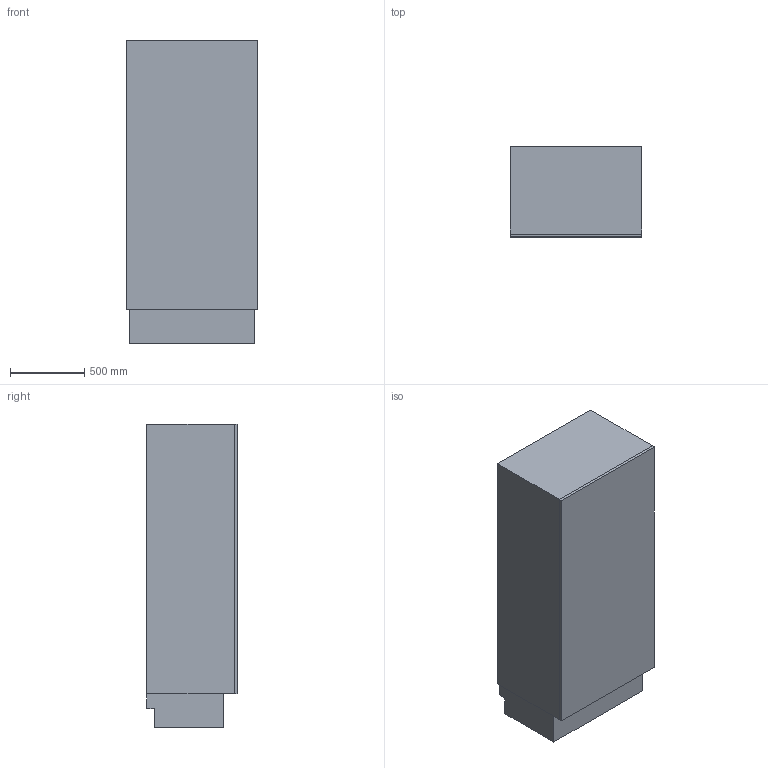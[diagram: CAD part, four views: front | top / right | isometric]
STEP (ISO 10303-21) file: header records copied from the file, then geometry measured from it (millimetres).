
FILE_DESCRIPTION(/* description */ (''),/* implementation_level */ '2;1');
FILE_NAME(/* name */ 'CO9205HVIL',/* time_stamp */ '2025-12-15T18:49:16+01:00',/* author */ (''),/* organization */ (''),/* preprocessor_version */ 'ST-DEVELOPER v16.5',/* originating_system */ 'Rhino 7.38',/* authorisation */ '');
FILE_SCHEMA (('AUTOMOTIVE_DESIGN'));
Length unit declared in the file: millimetre
Products named in the file (1): Document
Bounding box: 887 x 610 x 2050 mm (x, y, z)
Volume: 1079813149 mm3; surface area: 11247998 mm2
Topology: 3 solids, 3 shells, 20 faces, 42 edges, 28 vertices
Faces by surface type: plane 20
Entity records: 506 total; most frequent: CARTESIAN_POINT 134, ORIENTED_EDGE 84, EDGE_CURVE 42, B_SPLINE_CURVE_WITH_KNOTS 42, VERTEX_POINT 28, DIRECTION 24, AXIS2_PLACEMENT_3D 22, ADVANCED_FACE 20
